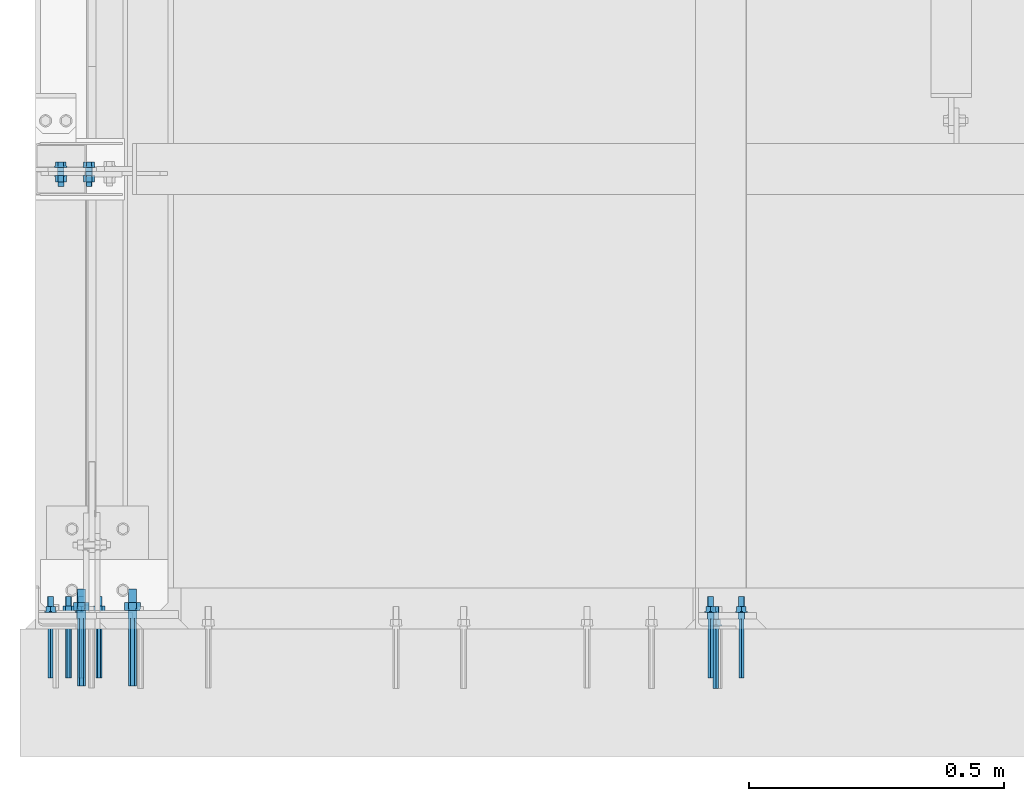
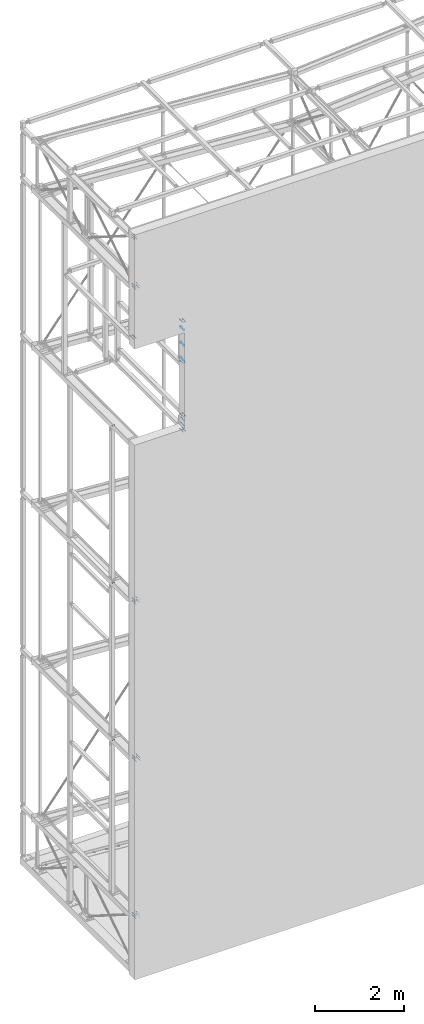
# One storey, part 217 of 271: 15 mechanical fasteners, 15 elements without a shape of their own.
"""IFC2X3 building model written with IfcOpenShell, lengths in millimetres."""

from ifc_helpers import new_model, si_unit, frame, frame_2d, origin_with_axes, origin_2d_with_axis, place, context, subcontext, project, spatial, polyline, circle_curve, parameter, trimmed, segment, composite_curve, circle, outline, extrude, source, transform, mapped, material, type_object, element, aggregate, save


model = new_model("IFC2X3")

# Units and contexts
model_context = context("Model", 3, precision=1e-05, world=origin_with_axes())
body_context = subcontext(model_context, "Body", "Model", "MODEL_VIEW")
ifc_project = project(units=[si_unit("LENGTHUNIT", "METRE", prefix="MILLI"), si_unit("AREAUNIT", "SQUARE_METRE"), si_unit("VOLUMEUNIT", "CUBIC_METRE"), si_unit("MASSUNIT", "GRAM", prefix="KILO"), si_unit("TIMEUNIT", "SECOND"), si_unit("PLANEANGLEUNIT", "RADIAN"), si_unit("SOLIDANGLEUNIT", "STERADIAN"), si_unit("THERMODYNAMICTEMPERATUREUNIT", "DEGREE_CELSIUS"), si_unit("LUMINOUSINTENSITYUNIT", "LUMEN")], contexts=[model_context])

# Site, building, storey
site_placement = place(None, origin_with_axes())
site = spatial("IfcSite", under=ifc_project, at=site_placement, Name="Undefined", CompositionType="ELEMENT")
building_placement = place(site_placement, origin_with_axes())
building = spatial("IfcBuilding", under=site, at=building_placement, Name="Undefined", CompositionType="ELEMENT")
storey_placement = place(building_placement, origin_with_axes())
storey = spatial("IfcBuildingStorey", under=building, at=storey_placement, Name="Undefined", CompositionType="ELEMENT", Elevation=0.0)

# Assembly, mechanical fastener
assembly_1_placement = place(storey_placement, origin_with_axes())
assembly_1 = element("IfcElementAssembly", 1, at=assembly_1_placement, inside=storey, AssemblyPlace="NOTDEFINED", PredefinedType="RIGID_FRAME")
ifc_material = material(Name="Undefined")
mechanical_fastener_type = type_object("IfcMechanicalFastenerType", Name="Bolt assembly")
shared_shape_1 = source(origin_with_axes(), body_context, "Body", "SweptSolid", [
    extrude(circle(Radius=7.0, at=origin_2d_with_axis()), frame((0.0, 0.0, 0.0), z_axis=(0.0, 1.0, 0.0), x_axis=(1.0, 0.0, 0.0)), (0.0, 0.0, 1.0), 6.1),
    extrude(outline(polyline([(5.80237031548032, 0.0), (2.90118515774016, 5.02500009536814), (-2.90118515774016, 5.02500009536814), (-5.80237031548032, 0.0), (-2.90118515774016, -5.02500009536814), (2.90118515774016, -5.02500009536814), (5.80237031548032, 0.0)])), frame((0.0, -116.0, 0.0), z_axis=(0.0, 1.0, 0.0), x_axis=(1.0, 0.0, 0.0)), (0.0, 0.0, 1.0), 116.0),
    extrude(circle(Radius=6.0, at=origin_2d_with_axis()), frame((0.0, 0.0, 0.0), z_axis=(0.0, 1.0, 0.0), x_axis=(1.0, 0.0, 0.0)), (0.0, 0.0, 1.0), 44.0),
    extrude(circle(Radius=12.0, at=origin_2d_with_axis()), frame((0.0, 6.0, 0.0), z_axis=(0.0, 1.0, 0.0), x_axis=(1.0, 0.0, 0.0)), (0.0, 0.0, 1.0), 2.5),
    extrude(outline(polyline([(10.96965511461, 0.0), (5.484827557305, 9.50000000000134), (-5.484827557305, 9.50000000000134), (-10.96965511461, 0.0), (-5.484827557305, -9.50000000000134), (5.484827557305, -9.50000000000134), (10.96965511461, 0.0)])), frame((0.0, 8.5, 0.0), z_axis=(0.0, 1.0, 0.0), x_axis=(1.0, 0.0, 0.0)), (0.0, 0.0, 1.0), 10.0),
])
mechanical_fastener_1_placement = place(assembly_1_placement, frame((1320.37568709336, -0.947880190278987, 16229.3499999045), z_axis=(-1.0, 0.0, 1.38777878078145e-17), x_axis=(0.0, 0.0, 1.0)))
mechanical_fastener_1 = element("IfcMechanicalFastener", 2, at=mechanical_fastener_1_placement, type_object=mechanical_fastener_type, material=ifc_material, Name="Bolt assembly", NominalDiameter=12.0, NominalLength=44.0, context=body_context, shape_type="MappedRepresentation", body=[
    mapped(shared_shape_1, transform((0.0, 0.0, 0.0))),
    mapped(shared_shape_1, transform((420.0, 0.0, 0.0))),
    mapped(shared_shape_1, transform((840.0, 0.0, 0.0))),
])
aggregate(assembly_1, [mechanical_fastener_1])

assembly_2_placement = place(storey_placement, origin_with_axes())
assembly_2 = element("IfcElementAssembly", 3, at=assembly_2_placement, inside=storey, AssemblyPlace="NOTDEFINED", PredefinedType="RIGID_FRAME")
mechanical_fastener_2_placement = place(assembly_2_placement, frame((1320.37568709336, -0.947880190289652, 14453.0999999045), z_axis=(-1.0, 0.0, 1.38777878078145e-17), x_axis=(0.0, 0.0, 1.0)))
mechanical_fastener_2 = element("IfcMechanicalFastener", 4, at=mechanical_fastener_2_placement, type_object=mechanical_fastener_type, material=ifc_material, Name="Bolt assembly", NominalDiameter=12.0, NominalLength=44.0, context=body_context, shape_type="MappedRepresentation", body=[
    mapped(shared_shape_1, transform((0.0, 0.0, 0.0))),
    mapped(shared_shape_1, transform((140.0, 0.0, 0.0))),
])
aggregate(assembly_2, [mechanical_fastener_2])

assembly_3_placement = place(storey_placement, origin_with_axes())
assembly_3 = element("IfcElementAssembly", 5, at=assembly_3_placement, inside=storey, AssemblyPlace="NOTDEFINED", PredefinedType="RIGID_FRAME")
shared_shape_2 = source(origin_with_axes(), body_context, "Body", "SweptSolid", [
    extrude(circle(Radius=7.0, at=origin_2d_with_axis()), frame((0.0, -12.0, 0.0), z_axis=(0.0, 1.0, 0.0), x_axis=(1.0, 0.0, 0.0)), (0.0, 0.0, 1.0), 12.1),
    extrude(outline(polyline([(5.80237031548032, 0.0), (2.90118515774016, 5.02500009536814), (-2.90118515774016, 5.02500009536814), (-5.80237031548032, 0.0), (-2.90118515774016, -5.02500009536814), (2.90118515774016, -5.02500009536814), (5.80237031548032, 0.0)])), frame((0.0, -128.0, 0.0), z_axis=(0.0, 1.0, 0.0), x_axis=(1.0, 0.0, 0.0)), (0.0, 0.0, 1.0), 116.0),
    extrude(circle(Radius=6.0, at=origin_2d_with_axis()), frame((0.0, -12.0, 0.0), z_axis=(0.0, 1.0, 0.0), x_axis=(1.0, 0.0, 0.0)), (0.0, 0.0, 1.0), 44.0),
    extrude(circle(Radius=12.0, at=origin_2d_with_axis()), frame((0.0, 0.0, 0.0), z_axis=(0.0, 1.0, 0.0), x_axis=(1.0, 0.0, 0.0)), (0.0, 0.0, 1.0), 2.5),
    extrude(outline(polyline([(10.96965511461, 0.0), (5.484827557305, 9.50000000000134), (-5.484827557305, 9.50000000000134), (-10.96965511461, 0.0), (-5.484827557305, -9.50000000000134), (5.484827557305, -9.50000000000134), (10.96965511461, 0.0)])), frame((0.0, 2.50000000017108, 0.0), z_axis=(0.0, 1.0, 0.0), x_axis=(1.0, 0.0, 0.0)), (0.0, 0.0, 1.0), 10.0),
])
mechanical_fastener_3_placement = place(assembly_3_placement, frame((1330.37568709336, 31.0521198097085, 14316.8499999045), z_axis=(-1.0, 0.0, 1.38777878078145e-17), x_axis=(0.0, 0.0, 1.0)))
mechanical_fastener_3 = element("IfcMechanicalFastener", 6, at=mechanical_fastener_3_placement, type_object=mechanical_fastener_type, material=ifc_material, Name="Bolt assembly", NominalDiameter=12.0, NominalLength=44.0, context=body_context, shape_type="MappedRepresentation", body=[
    mapped(shared_shape_2, transform((-50.0, 0.0, -40.0))),
    mapped(shared_shape_2, transform((-50.0, 0.0, 20.0))),
])
aggregate(assembly_3, [mechanical_fastener_3])

assembly_4_placement = place(storey_placement, origin_with_axes())
assembly_4 = element("IfcElementAssembly", 7, at=assembly_4_placement, inside=storey, AssemblyPlace="NOTDEFINED", PredefinedType="RIGID_FRAME")
mechanical_fastener_4_placement = place(assembly_4_placement, frame((1330.37568709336, 31.0521198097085, 14744.3499999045), z_axis=(-1.0, 0.0, 1.38777878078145e-17), x_axis=(0.0, 0.0, 1.0)))
mechanical_fastener_4 = element("IfcMechanicalFastener", 8, at=mechanical_fastener_4_placement, type_object=mechanical_fastener_type, material=ifc_material, Name="Bolt assembly", NominalDiameter=12.0, NominalLength=44.0, context=body_context, shape_type="MappedRepresentation", body=[
    mapped(shared_shape_2, transform((-60.0, 0.0, -40.0))),
    mapped(shared_shape_2, transform((-60.0, 0.0, 20.0))),
])
aggregate(assembly_4, [mechanical_fastener_4])

assembly_5_placement = place(storey_placement, origin_with_axes())
assembly_5 = element("IfcElementAssembly", 9, at=assembly_5_placement, inside=storey, AssemblyPlace="NOTDEFINED", PredefinedType="RIGID_FRAME")
mechanical_fastener_5_placement = place(assembly_5_placement, frame((1330.37568709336, 31.0521198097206, 16084.3499999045), z_axis=(1.0, 0.0, 0.0), x_axis=(0.0, 0.0, -1.0)))
mechanical_fastener_5 = element("IfcMechanicalFastener", 10, at=mechanical_fastener_5_placement, type_object=mechanical_fastener_type, material=ifc_material, Name="Bolt assembly", NominalDiameter=12.0, NominalLength=44.0, context=body_context, shape_type="MappedRepresentation", body=[
    mapped(shared_shape_2, transform((-60.0, 0.0, -20.0))),
    mapped(shared_shape_2, transform((-60.0, 0.0, 40.0))),
])
aggregate(assembly_5, [mechanical_fastener_5])

assembly_6_placement = place(storey_placement, origin_with_axes())
assembly_6 = element("IfcElementAssembly", 11, at=assembly_6_placement, inside=storey, AssemblyPlace="NOTDEFINED", PredefinedType="RIGID_FRAME")
mechanical_fastener_6_placement = place(assembly_6_placement, frame((1330.37568709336, 31.0521198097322, 17219.3499999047), z_axis=(1.0, 0.0, 0.0), x_axis=(0.0, 0.0, -1.0)))
mechanical_fastener_6 = element("IfcMechanicalFastener", 12, at=mechanical_fastener_6_placement, type_object=mechanical_fastener_type, material=ifc_material, Name="Bolt assembly", NominalDiameter=12.0, NominalLength=44.0, context=body_context, shape_type="MappedRepresentation", body=[
    mapped(shared_shape_2, transform((-50.0, 0.0, -20.0))),
    mapped(shared_shape_2, transform((-50.0, 0.0, 40.0))),
])
aggregate(assembly_6, [mechanical_fastener_6])

assembly_7_placement = place(storey_placement, origin_with_axes())
assembly_7 = element("IfcElementAssembly", 13, at=assembly_7_placement, inside=storey, AssemblyPlace="NOTDEFINED", PredefinedType="RIGID_FRAME")
mechanical_fastener_7_placement = place(assembly_7_placement, frame((38.3756870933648, 31.0521198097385, 17214.3499999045), z_axis=(1.0, 0.0, 0.0), x_axis=(0.0, 0.0, -1.0)))
mechanical_fastener_7 = element("IfcMechanicalFastener", 14, at=mechanical_fastener_7_placement, type_object=mechanical_fastener_type, material=ifc_material, Name="Bolt assembly", NominalDiameter=12.0, NominalLength=44.0, context=body_context, shape_type="MappedRepresentation", body=[
    mapped(shared_shape_2, transform((-60.0, 0.0, -20.0))),
    mapped(shared_shape_2, transform((-60.0, 0.0, 40.0))),
])
aggregate(assembly_7, [mechanical_fastener_7])

assembly_8_placement = place(storey_placement, origin_with_axes())
assembly_8 = element("IfcElementAssembly", 15, at=assembly_8_placement, inside=storey, AssemblyPlace="NOTDEFINED", PredefinedType="RIGID_FRAME")
mechanical_fastener_8_placement = place(assembly_8_placement, frame((163.375687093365, 31.3249842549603, 20004.3499999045), z_axis=(0.0, 0.0, -1.0), x_axis=(-1.0, 0.0, 1.38777878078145e-17)))
mechanical_fastener_8 = element("IfcMechanicalFastener", 16, at=mechanical_fastener_8_placement, type_object=mechanical_fastener_type, material=ifc_material, Name="Bolt assembly", NominalDiameter=12.0, NominalLength=44.0, context=body_context, shape_type="MappedRepresentation", body=[
    mapped(shared_shape_2, transform((50.0, 0.0, -30.0))),
    mapped(shared_shape_2, transform((50.0, 0.0, 30.0))),
    mapped(shared_shape_2, transform((110.0, 0.0, -30.0))),
    mapped(shared_shape_2, transform((110.0, 0.0, 30.0))),
])
aggregate(assembly_8, [mechanical_fastener_8])

assembly_9_placement = place(storey_placement, origin_with_axes())
assembly_9 = element("IfcElementAssembly", 17, at=assembly_9_placement, inside=storey, AssemblyPlace="NOTDEFINED", PredefinedType="RIGID_FRAME")
shared_shape_3 = source(origin_with_axes(), body_context, "Body", "SweptSolid", [
    extrude(circle(Radius=9.0, at=origin_2d_with_axis()), frame((0.0, -16.0, 0.0), z_axis=(0.0, 1.0, 0.0), x_axis=(1.0, 0.0, 0.0)), (0.0, 0.0, 1.0), 16.1),
    extrude(outline(polyline([(7.73649338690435, 0.0), (3.86824669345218, 6.69999980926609), (-3.86824669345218, 6.69999980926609), (-7.73649338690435, 0.0), (-3.86824669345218, -6.69999980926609), (3.86824669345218, -6.69999980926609), (7.73649338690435, 0.0)])), frame((0.0, -148.0, 0.0), z_axis=(0.0, 1.0, 0.0), x_axis=(1.0, 0.0, 0.0)), (0.0, 0.0, 1.0), 132.0),
    extrude(circle(Radius=8.0, at=origin_2d_with_axis()), frame((0.0, -16.0, 0.0), z_axis=(0.0, 1.0, 0.0), x_axis=(1.0, 0.0, 0.0)), (0.0, 0.0, 1.0), 58.0),
    extrude(circle(Radius=15.0, at=origin_2d_with_axis()), frame((0.0, 0.0, 0.0), z_axis=(0.0, 1.0, 0.0), x_axis=(1.0, 0.0, 0.0)), (0.0, 0.0, 1.0), 3.0),
    extrude(outline(polyline([(15.4441197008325, 0.0), (7.72205985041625, 13.3750000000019), (-7.72205985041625, 13.3750000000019), (-15.4441197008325, 0.0), (-7.72205985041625, -13.3750000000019), (7.72205985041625, -13.3750000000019), (15.4441197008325, 0.0)])), frame((0.0, 3.0, 0.0), z_axis=(0.0, 1.0, 0.0), x_axis=(1.0, 0.0, 0.0)), (0.0, 0.0, 1.0), 13.0),
])
mechanical_fastener_9_placement = place(assembly_9_placement, frame((253.375687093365, 35.3249842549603, 1364.34999990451), z_axis=(0.0, 0.0, -1.0), x_axis=(-1.0, 0.0, 1.38777878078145e-17)))
mechanical_fastener_9 = element("IfcMechanicalFastener", 18, at=mechanical_fastener_9_placement, type_object=mechanical_fastener_type, material=ifc_material, Name="Bolt assembly", NominalDiameter=16.0, NominalLength=58.0, context=body_context, shape_type="MappedRepresentation", body=[
    mapped(shared_shape_3, transform((75.0, 0.0, -35.0))),
    mapped(shared_shape_3, transform((75.0, 0.0, 35.0))),
    mapped(shared_shape_3, transform((175.0, 0.0, -35.0))),
    mapped(shared_shape_3, transform((175.0, 0.0, 35.0))),
])
aggregate(assembly_9, [mechanical_fastener_9])

assembly_10_placement = place(storey_placement, origin_with_axes())
assembly_10 = element("IfcElementAssembly", 19, at=assembly_10_placement, inside=storey, AssemblyPlace="NOTDEFINED", PredefinedType="RIGID_FRAME")
mechanical_fastener_10_placement = place(assembly_10_placement, frame((253.375687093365, 35.3249842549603, 5684.34999990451), z_axis=(0.0, 0.0, -1.0), x_axis=(-1.0, 0.0, 1.38777878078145e-17)))
mechanical_fastener_10 = element("IfcMechanicalFastener", 20, at=mechanical_fastener_10_placement, type_object=mechanical_fastener_type, material=ifc_material, Name="Bolt assembly", NominalDiameter=16.0, NominalLength=58.0, context=body_context, shape_type="MappedRepresentation", body=[
    mapped(shared_shape_3, transform((75.0, 0.0, -35.0))),
    mapped(shared_shape_3, transform((75.0, 0.0, 35.0))),
    mapped(shared_shape_3, transform((175.0, 0.0, -35.0))),
    mapped(shared_shape_3, transform((175.0, 0.0, 35.0))),
])
aggregate(assembly_10, [mechanical_fastener_10])

assembly_11_placement = place(storey_placement, origin_with_axes())
assembly_11 = element("IfcElementAssembly", 21, at=assembly_11_placement, inside=storey, AssemblyPlace="NOTDEFINED", PredefinedType="RIGID_FRAME")
mechanical_fastener_11_placement = place(assembly_11_placement, frame((253.375687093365, 35.3249842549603, 10004.3499999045), z_axis=(0.0, 0.0, -1.0), x_axis=(-1.0, 0.0, 1.38777878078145e-17)))
mechanical_fastener_11 = element("IfcMechanicalFastener", 22, at=mechanical_fastener_11_placement, type_object=mechanical_fastener_type, material=ifc_material, Name="Bolt assembly", NominalDiameter=16.0, NominalLength=58.0, context=body_context, shape_type="MappedRepresentation", body=[
    mapped(shared_shape_3, transform((75.0, 0.0, -35.0))),
    mapped(shared_shape_3, transform((75.0, 0.0, 35.0))),
    mapped(shared_shape_3, transform((175.0, 0.0, -35.0))),
    mapped(shared_shape_3, transform((175.0, 0.0, 35.0))),
])
aggregate(assembly_11, [mechanical_fastener_11])

assembly_12_placement = place(storey_placement, origin_with_axes())
assembly_12 = element("IfcElementAssembly", 23, at=assembly_12_placement, inside=storey, AssemblyPlace="NOTDEFINED", PredefinedType="RIGID_FRAME")
mechanical_fastener_12_placement = place(assembly_12_placement, frame((253.375687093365, 35.3249842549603, 18644.3499999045), z_axis=(0.0, 0.0, -1.0), x_axis=(-1.0, 0.0, 1.38777878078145e-17)))
mechanical_fastener_12 = element("IfcMechanicalFastener", 24, at=mechanical_fastener_12_placement, type_object=mechanical_fastener_type, material=ifc_material, Name="Bolt assembly", NominalDiameter=16.0, NominalLength=58.0, context=body_context, shape_type="MappedRepresentation", body=[
    mapped(shared_shape_3, transform((75.0, 0.0, -35.0))),
    mapped(shared_shape_3, transform((75.0, 0.0, 35.0))),
    mapped(shared_shape_3, transform((175.0, 0.0, -35.0))),
    mapped(shared_shape_3, transform((175.0, 0.0, 35.0))),
])
aggregate(assembly_12, [mechanical_fastener_12])

assembly_13_placement = place(storey_placement, origin_with_axes())
assembly_13 = element("IfcElementAssembly", 25, at=assembly_13_placement, inside=storey, AssemblyPlace="NOTDEFINED", PredefinedType="RIGID_FRAME")
shared_shape_4 = source(origin_with_axes(), body_context, "Body", "SweptSolid", [
    extrude(circle(Radius=6.5, at=origin_2d_with_axis()), frame((0.0, 7.89999999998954, 0.0), z_axis=(0.0, 1.0, 0.0), x_axis=(1.0, 0.0, 0.0)), (0.0, 0.0, 1.0), 8.1),
    extrude(outline(composite_curve([segment(polyline([(6.5, 13.5), (6.5, -13.5)]), True, "CONTINUOUS"), segment(trimmed(circle_curve(frame_2d((0.0, -13.5), x_axis=(1.0, 0.0)), 6.5), [parameter(0.0)], [parameter(3.14159265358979)], False, "PARAMETER"), True, "CONTINUOUS"), segment(polyline([(-6.5, -13.5), (-6.5, 13.5)]), True, "CONTINUOUS"), segment(trimmed(circle_curve(frame_2d((0.0, 13.5), x_axis=(-1.0, 0.0)), 6.5), [parameter(0.0)], [parameter(3.14159265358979)], False, "PARAMETER"), True, "DISCONTINUOUS")], self_intersect=False)), frame((0.0, 0.0999999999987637, 0.0), z_axis=(0.0, 1.0, 0.0), x_axis=(1.0, 0.0, 0.0)), (0.0, 0.0, 1.0), 8.0),
    extrude(outline(polyline([(10.39230484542, 0.0), (5.19615242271, 9.00000000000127), (-5.19615242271, 9.00000000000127), (-10.39230484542, 0.0), (-5.19615242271, -9.00000000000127), (5.19615242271, -9.00000000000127), (10.39230484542, 0.0)])), frame((0.0, -10.0, 0.0), z_axis=(0.0, 1.0, 0.0), x_axis=(1.0, 0.0, 0.0)), (0.0, 0.0, 1.0), 7.5),
    extrude(circle(Radius=6.0, at=origin_2d_with_axis()), frame((0.0, -2.50000000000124, 0.0), z_axis=(0.0, 1.0, 0.0), x_axis=(1.0, 0.0, 0.0)), (0.0, 0.0, 1.0), 40.0),
    extrude(circle(Radius=12.0, at=origin_2d_with_axis()), frame((0.0, -2.50000000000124, 0.0), z_axis=(0.0, 1.0, 0.0), x_axis=(1.0, 0.0, 0.0)), (0.0, 0.0, 1.0), 2.5),
    extrude(circle(Radius=12.0, at=origin_2d_with_axis()), frame((0.0, 16.0, 0.0), z_axis=(0.0, 1.0, 0.0), x_axis=(1.0, 0.0, 0.0)), (0.0, 0.0, 1.0), 2.5),
    extrude(outline(polyline([(10.96965511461, 0.0), (5.484827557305, 9.50000000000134), (-5.484827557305, 9.50000000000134), (-10.96965511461, 0.0), (-5.484827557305, -9.50000000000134), (5.484827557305, -9.50000000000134), (10.96965511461, 0.0)])), frame((0.0, 18.5, 0.0), z_axis=(0.0, 1.0, 0.0), x_axis=(1.0, 0.0, 0.0)), (0.0, 0.0, 1.0), 10.0),
])
mechanical_fastener_13_placement = place(assembly_13_placement, frame((38.3756870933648, 903.052119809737, 14279.8499999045), z_axis=(0.0, 0.0, -1.0), x_axis=(1.0, 0.0, 0.0)))
mechanical_fastener_13 = element("IfcMechanicalFastener", 26, at=mechanical_fastener_13_placement, type_object=mechanical_fastener_type, material=ifc_material, Name="Bolt assembly", NominalDiameter=12.0, NominalLength=40.0, context=body_context, shape_type="MappedRepresentation", body=[
    mapped(shared_shape_4, transform((0.0, 0.0, 0.0))),
    mapped(shared_shape_4, transform((55.0, 0.0, 0.0))),
])
aggregate(assembly_13, [mechanical_fastener_13])

assembly_14_placement = place(storey_placement, origin_with_axes())
assembly_14 = element("IfcElementAssembly", 27, at=assembly_14_placement, inside=storey, AssemblyPlace="NOTDEFINED", PredefinedType="RIGID_FRAME")
shared_shape_5 = source(origin_with_axes(), body_context, "Body", "SweptSolid", [
    extrude(circle(Radius=6.5, at=origin_2d_with_axis()), frame((0.0, 7.89999999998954, 0.0), z_axis=(0.0, 1.0, 0.0), x_axis=(1.0, 0.0, 0.0)), (0.0, 0.0, 1.0), 8.1),
    extrude(outline(composite_curve([segment(polyline([(6.5, 13.5), (6.5, -13.5)]), True, "CONTINUOUS"), segment(trimmed(circle_curve(frame_2d((0.0, -13.5), x_axis=(1.0, 0.0)), 6.5), [parameter(0.0)], [parameter(3.14159265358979)], False, "PARAMETER"), True, "CONTINUOUS"), segment(polyline([(-6.5, -13.5), (-6.5, 13.5)]), True, "CONTINUOUS"), segment(trimmed(circle_curve(frame_2d((0.0, 13.5), x_axis=(-1.0, 0.0)), 6.5), [parameter(0.0)], [parameter(3.14159265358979)], False, "PARAMETER"), True, "DISCONTINUOUS")], self_intersect=False)), frame((0.0, 0.0999999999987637, 0.0), z_axis=(0.0, 1.0, 0.0), x_axis=(1.0, 0.0, 0.0)), (0.0, 0.0, 1.0), 8.0),
    extrude(outline(polyline([(10.39230484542, 0.0), (5.19615242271, 9.00000000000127), (-5.19615242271, 9.00000000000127), (-10.39230484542, 0.0), (-5.19615242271, -9.00000000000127), (5.19615242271, -9.00000000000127), (10.39230484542, 0.0)])), frame((0.0, -10.0, 0.0), z_axis=(0.0, 1.0, 0.0), x_axis=(1.0, 0.0, 0.0)), (0.0, 0.0, 1.0), 7.5),
    extrude(circle(Radius=6.0, at=origin_2d_with_axis()), frame((0.0, -2.50000000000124, 0.0), z_axis=(0.0, 1.0, 0.0), x_axis=(1.0, 0.0, 0.0)), (0.0, 0.0, 1.0), 40.0),
    extrude(circle(Radius=12.0, at=origin_2d_with_axis()), frame((0.0, -2.50000000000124, 0.0), z_axis=(0.0, 1.0, 0.0), x_axis=(1.0, 0.0, 0.0)), (0.0, 0.0, 1.0), 2.5),
    extrude(circle(Radius=12.0, at=origin_2d_with_axis()), frame((0.0, 16.0, 0.0), z_axis=(0.0, 1.0, 0.0), x_axis=(1.0, 0.0, 0.0)), (0.0, 0.0, 1.0), 2.5),
    extrude(outline(polyline([(10.96965511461, 0.0), (5.484827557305, 9.50000000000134), (-5.484827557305, 9.50000000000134), (-10.96965511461, 0.0), (-5.484827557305, -9.50000000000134), (5.484827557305, -9.50000000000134), (10.96965511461, 0.0)])), frame((0.0, 18.5, 0.0), z_axis=(0.0, 1.0, 0.0), x_axis=(1.0, 0.0, 0.0)), (0.0, 0.0, 1.0), 10.0),
])
mechanical_fastener_14_placement = place(assembly_14_placement, frame((38.3756870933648, 903.052119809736, 9959.8499999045), z_axis=(0.0, 0.0, -1.0), x_axis=(1.0, 0.0, 0.0)))
mechanical_fastener_14 = element("IfcMechanicalFastener", 28, at=mechanical_fastener_14_placement, type_object=mechanical_fastener_type, material=ifc_material, Name="Bolt assembly", NominalDiameter=12.0, NominalLength=40.0, context=body_context, shape_type="MappedRepresentation", body=[
    mapped(shared_shape_5, transform((0.0, 0.0, 0.0))),
    mapped(shared_shape_5, transform((55.0, 0.0, 0.0))),
])
aggregate(assembly_14, [mechanical_fastener_14])

assembly_15_placement = place(storey_placement, origin_with_axes())
assembly_15 = element("IfcElementAssembly", 29, at=assembly_15_placement, inside=storey, AssemblyPlace="NOTDEFINED", PredefinedType="RIGID_FRAME")
shared_shape_6 = source(origin_with_axes(), body_context, "Body", "SweptSolid", [
    extrude(circle(Radius=6.5, at=origin_2d_with_axis()), frame((0.0, 7.89999999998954, 0.0), z_axis=(0.0, 1.0, 0.0), x_axis=(1.0, 0.0, 0.0)), (0.0, 0.0, 1.0), 8.1),
    extrude(outline(composite_curve([segment(polyline([(6.5, 13.5), (6.5, -13.5)]), True, "CONTINUOUS"), segment(trimmed(circle_curve(frame_2d((0.0, -13.5), x_axis=(1.0, 0.0)), 6.5), [parameter(0.0)], [parameter(3.14159265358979)], False, "PARAMETER"), True, "CONTINUOUS"), segment(polyline([(-6.5, -13.5), (-6.5, 13.5)]), True, "CONTINUOUS"), segment(trimmed(circle_curve(frame_2d((0.0, 13.5), x_axis=(-1.0, 0.0)), 6.5), [parameter(0.0)], [parameter(3.14159265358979)], False, "PARAMETER"), True, "DISCONTINUOUS")], self_intersect=False)), frame((0.0, 0.0999999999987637, 0.0), z_axis=(0.0, 1.0, 0.0), x_axis=(1.0, 0.0, 0.0)), (0.0, 0.0, 1.0), 8.0),
    extrude(outline(polyline([(10.39230484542, 0.0), (5.19615242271, 9.00000000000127), (-5.19615242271, 9.00000000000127), (-10.39230484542, 0.0), (-5.19615242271, -9.00000000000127), (5.19615242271, -9.00000000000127), (10.39230484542, 0.0)])), frame((0.0, -10.0, 0.0), z_axis=(0.0, 1.0, 0.0), x_axis=(1.0, 0.0, 0.0)), (0.0, 0.0, 1.0), 7.5),
    extrude(circle(Radius=6.0, at=origin_2d_with_axis()), frame((0.0, -2.50000000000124, 0.0), z_axis=(0.0, 1.0, 0.0), x_axis=(1.0, 0.0, 0.0)), (0.0, 0.0, 1.0), 40.0),
    extrude(circle(Radius=12.0, at=origin_2d_with_axis()), frame((0.0, -2.50000000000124, 0.0), z_axis=(0.0, 1.0, 0.0), x_axis=(1.0, 0.0, 0.0)), (0.0, 0.0, 1.0), 2.5),
    extrude(circle(Radius=12.0, at=origin_2d_with_axis()), frame((0.0, 16.0, 0.0), z_axis=(0.0, 1.0, 0.0), x_axis=(1.0, 0.0, 0.0)), (0.0, 0.0, 1.0), 2.5),
    extrude(outline(polyline([(10.96965511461, 0.0), (5.484827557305, 9.50000000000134), (-5.484827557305, 9.50000000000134), (-10.96965511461, 0.0), (-5.484827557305, -9.50000000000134), (5.484827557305, -9.50000000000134), (10.96965511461, 0.0)])), frame((0.0, 18.5, 0.0), z_axis=(0.0, 1.0, 0.0), x_axis=(1.0, 0.0, 0.0)), (0.0, 0.0, 1.0), 10.0),
])
mechanical_fastener_15_placement = place(assembly_15_placement, frame((38.3756870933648, 903.052119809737, 5639.8499999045), z_axis=(0.0, 0.0, -1.0), x_axis=(1.0, 0.0, 0.0)))
mechanical_fastener_15 = element("IfcMechanicalFastener", 30, at=mechanical_fastener_15_placement, type_object=mechanical_fastener_type, material=ifc_material, Name="Bolt assembly", NominalDiameter=12.0, NominalLength=40.0, context=body_context, shape_type="MappedRepresentation", body=[
    mapped(shared_shape_6, transform((0.0, 0.0, 0.0))),
    mapped(shared_shape_6, transform((55.0, 0.0, 0.0))),
])
aggregate(assembly_15, [mechanical_fastener_15])

save(model, "model.ifc")
